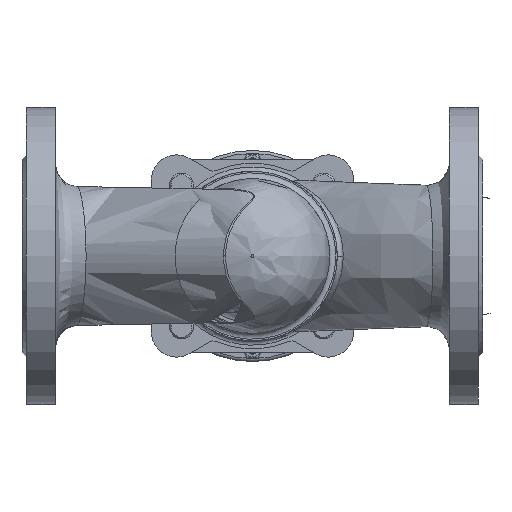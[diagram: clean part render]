
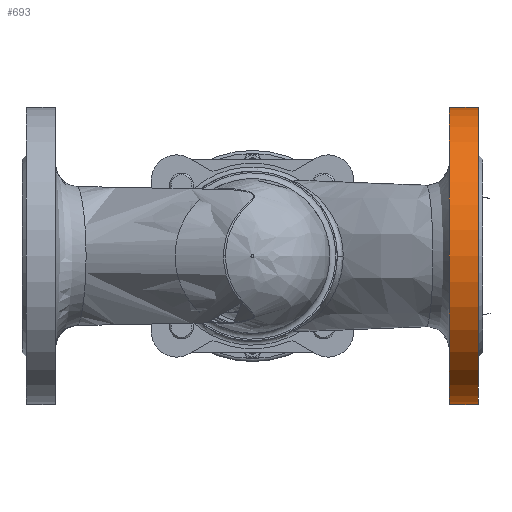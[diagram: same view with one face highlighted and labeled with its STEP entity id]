
A CAD part, front view. The second image highlights one B-rep face of the part: STEP entity #693.
In plain terms, the highlighted cylindrical face has radius 100 mm (diameter 200 mm), a full revolution.
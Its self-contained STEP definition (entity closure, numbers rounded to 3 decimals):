
#693=ADVANCED_FACE('',(#18684),#18686,.T.);
#18684=FACE_OUTER_BOUND('',#18685,.T.);
#18685=EDGE_LOOP('',(#26590,#26591,#26592,#26593));
#18686=CYLINDRICAL_SURFACE('',#18687,100.);
#18687=AXIS2_PLACEMENT_3D('',#18688,#18689,#18690);
#18688=CARTESIAN_POINT('',(287.5,100.082,-100.));
#18689=DIRECTION('',(-1.,0.,0.));
#18690=DIRECTION('',(0.,0.,1.));
#26590=ORIENTED_EDGE('',*,*,#28816,.T.);
#26591=ORIENTED_EDGE('',*,*,#28817,.T.);
#26592=ORIENTED_EDGE('',*,*,#28816,.F.);
#26593=ORIENTED_EDGE('',*,*,#28798,.F.);
#28798=EDGE_CURVE('',#31278,#31278,#31279,.T.);
#28816=EDGE_CURVE('',#31278,#31308,#31309,.T.);
#28817=EDGE_CURVE('',#31308,#31308,#31310,.T.);
#31278=VERTEX_POINT('',#51510);
#31279=CIRCLE('',#51511,100.);
#31308=VERTEX_POINT('',#51837);
#31309=LINE('',#51838,#51839);
#31310=CIRCLE('',#51841,100.);
#51510=CARTESIAN_POINT('',(287.5,100.082,0.));
#51511=AXIS2_PLACEMENT_3D('',#51512,#51513,#51514);
#51512=CARTESIAN_POINT('',(287.5,100.082,-100.));
#51513=DIRECTION('',(-1.,0.,0.));
#51514=DIRECTION('',(0.,0.,1.));
#51837=CARTESIAN_POINT('',(307.,100.082,0.));
#51838=CARTESIAN_POINT('',(287.5,100.082,0.));
#51839=VECTOR('',#51840,1.);
#51840=DIRECTION('',(1.,0.,0.));
#51841=AXIS2_PLACEMENT_3D('',#51842,#51843,#51844);
#51842=CARTESIAN_POINT('',(307.,100.082,-100.));
#51843=DIRECTION('',(-1.,0.,0.));
#51844=DIRECTION('',(0.,0.,1.));
